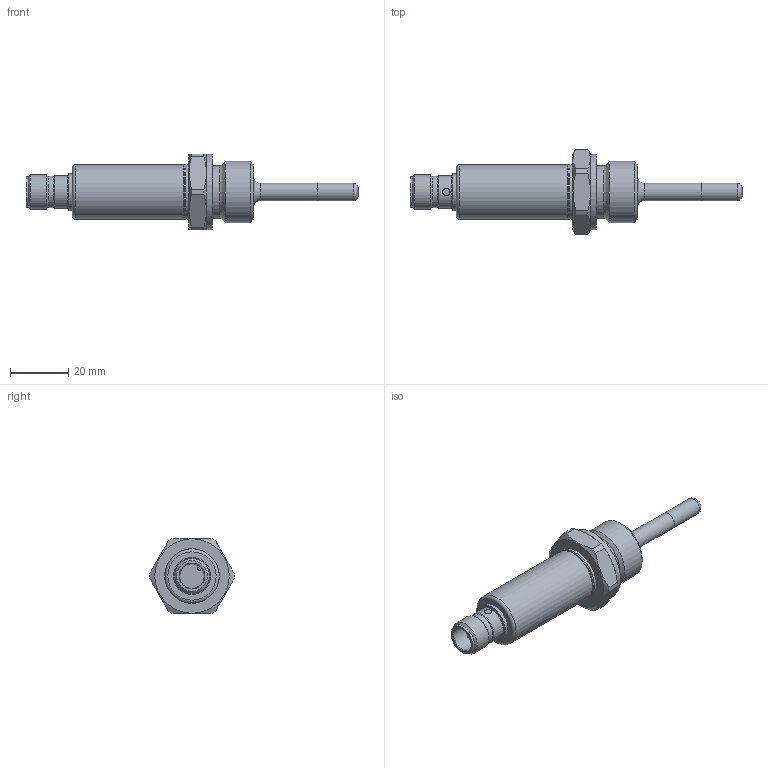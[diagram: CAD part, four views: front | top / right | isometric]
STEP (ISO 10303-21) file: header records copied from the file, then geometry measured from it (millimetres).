
FILE_DESCRIPTION( ( 'STEP AP203' ), ' ' );
FILE_NAME( 'p:/temp/worker_52/408_2140/app_41_02016122311413605721893192d056f_000000_00_00_000000/format_4/TA2417_p1.stp', '2016-12-23T10:41:37', ( '' ), ( '' ), ' ', 'PARTsolutions', ' ' );
FILE_SCHEMA( ( 'CONFIG_CONTROL_DESIGN' ) );
Length unit declared in the file: millimetre
Products named in the file (1): _TA2417_p1
Bounding box: 113.9 x 28.99 x 26.07 mm (x, y, z)
Volume: 21878 mm3; surface area: 6676.7 mm2
Topology: 1 solids, 1 shells, 76 faces, 169 edges, 105 vertices
Faces by surface type: plane 26, cylinder 26, cone 14, torus 9, bspline 1
Full cylindrical faces by diameter (mm): 2.5 x2, 5.95 x1, 6 x1, 8.4 x1, 10.6 x1, 10.8 x1, 11.3 x1, 12 x1, 12.7 x1, 18 x1, 18.58 x1, 18.75 x2, 20.955 x1, 23.8 x1, 26 x1
Entity records: 2219 total; most frequent: CARTESIAN_POINT 672, DIRECTION 316, ORIENTED_EDGE 258, AXIS2_PLACEMENT_3D 145, EDGE_CURVE 129, EDGE_LOOP 122, FACE_OUTER_BOUND 103, VERTEX_POINT 101
